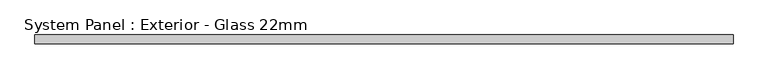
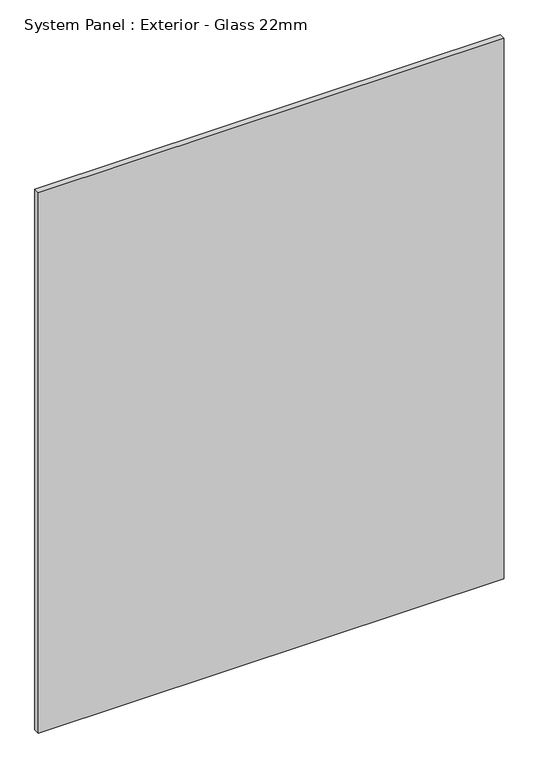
"""IFC4 building model written with IfcOpenShell, lengths in millimetres: plate geometry, System Panel : Exterior - Glass 22mm."""

from ifc_helpers import new_model, si_unit, origin, origin_with_axes, place, context, project, spatial, polyline, outline, extrude, source, transform, mapped, element, save


def system_panel_exterior_glass_22mm_8744a841(model_context):
    return source(origin(), model_context, "Body", "SweptSolid", [
        extrude(outline(polyline([(856.25, -50.0), (-856.25, -50.0), (-856.25, -28.0), (856.25, -28.0), (856.25, -50.0)])), origin_with_axes(), (0.0, 0.0, 1.0), 2100.0),
    ])


if __name__ == "__main__":
    model = new_model("IFC4")
    model_context = context("Model", 3, world=origin())
    ifc_project = project(units=[si_unit("LENGTHUNIT", "METRE", prefix="MILLI")], contexts=[model_context])
    site = spatial("IfcSite", under=ifc_project)
    building = spatial("IfcBuilding", under=site)
    placement = place(None, origin())
    system_panel_exterior_glass_22mm_shape = system_panel_exterior_glass_22mm_8744a841(model_context)
    element("IfcPlate", 1, ObjectType="System Panel : Exterior - Glass 22mm", at=placement, inside=building, context=model_context, shape_type="MappedRepresentation", body=[
        mapped(system_panel_exterior_glass_22mm_shape, transform((0.0, 0.0, 0.0), x_axis=(1.0, 0.0, 0.0), y_axis=(0.0, 1.0, 0.0), z_axis=(0.0, 0.0, 1.0))),
    ])
    save(model, "model.ifc")
